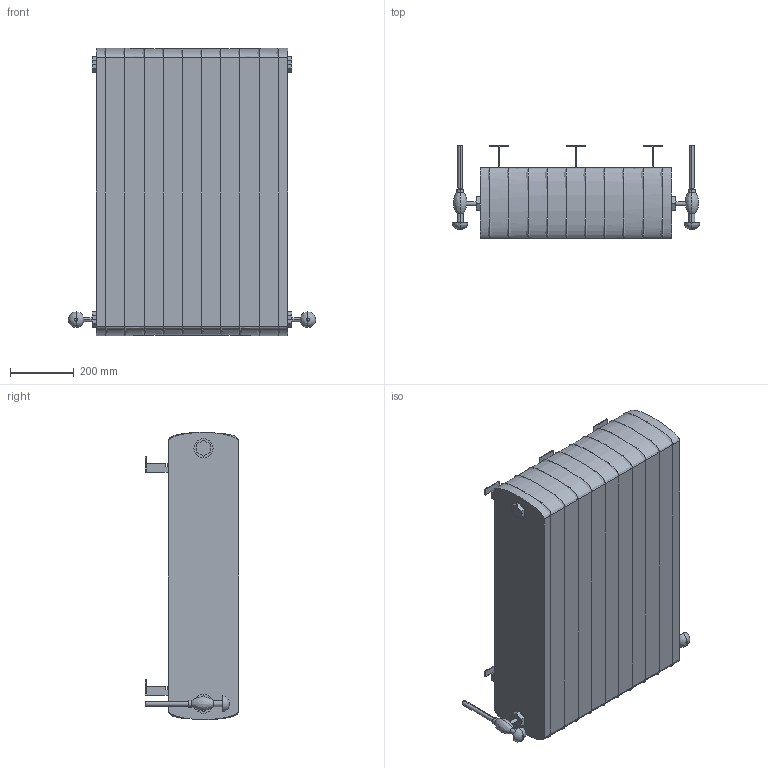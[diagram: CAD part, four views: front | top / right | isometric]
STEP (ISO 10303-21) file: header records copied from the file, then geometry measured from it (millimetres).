
FILE_DESCRIPTION(/* description */ (''),/* implementation_level */ '2;1');
FILE_NAME(/* name */ 'Ionic_6Column_WallMounted',/* time_stamp */ '2026-08-04T19:13:05+03:00',/* author */ (''),/* organization */ (''),/* preprocessor_version */ 'ST-DEVELOPER v20',/* originating_system */ '',/* authorisation */ '');
FILE_SCHEMA (('AP242_MANAGED_MODEL_BASED_3D_ENGINEERING_MIM_LF { 1 0 10303 442 1 1 4 }'));
Length unit declared in the file: millimetre
Products named in the file (10): TopLevelAssembly; Выдавливание; Выдавливание_
1; Выдавливание_
2; Выдавливание_
3; Выдавливание_
4; MHS_Chartwell_Valve_Wall; MHS_Chartwell_Valve_Wall_1; MHS_Ionic_4_6; IonicBracket
Assembly tree (27 placements, depth 2):
  TopLevelAssembly
    Выдавливание
    Выдавливание_
1
    Выдавливание_
2
    Выдавливание_
3
    MHS_Ionic_4_6  x10
    Выдавливание_
4
    IonicBracket  x10
    MHS_Chartwell_Valve_Wall
    MHS_Chartwell_Valve_Wall_1
Bounding box: 774.75 x 293 x 899.71 mm (x, y, z)
Volume: 157118055.9 mm3; surface area: 8810621.2 mm2
Topology: 99 solids, 99 shells, 1860 faces, 4194 edges, 2612 vertices
Faces by surface type: plane 934, bspline 590, cylinder 256, cone 80
Entity records: 23899 total; most frequent: CARTESIAN_POINT 17671, ORIENTED_EDGE 1170, DIRECTION 1127, EDGE_CURVE 585, LINE 383, VECTOR 383, AXIS2_PLACEMENT_3D 372, VERTEX_POINT 362
